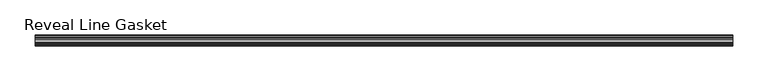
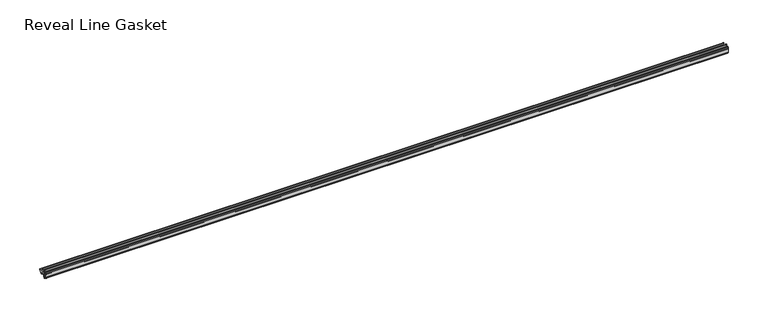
"""IFC4 building model written with IfcOpenShell, lengths in millimetres: proxy geometry, Accessories-Teknion-FHGR-AI_Healthcare-Reveal_Line_Gasket(Horizontal)-R2022 : Reveal Line Gasket."""

from ifc_helpers import new_model, si_unit, point, frame, frame_2d, origin, place, context, project, spatial, polyline, circle_curve, trimmed, segment, composite_curve, outline, extrude, source, transform, mapped, element, save


def reveal_line_gasket_129473d7(model_context):
    return source(origin(), model_context, "Body", "SweptSolid", [
        extrude(outline(composite_curve([segment(polyline([(-7.6326998, 1603.2), (-7.4091917, 1604.1554927), (-6.8813059, 1605.0884684)]), True, "CONTINUOUS"), segment(trimmed(circle_curve(frame_2d((-6.5243141, 1604.8864793)), 0.4101739), [point((-6.8813059, 1605.0884684))], [point((-6.1246704, 1604.7941347))], False, "CARTESIAN"), True, "CONTINUOUS"), segment(polyline([(-6.1246704, 1604.7941347), (-6.3626997, 1603.0979086), (-6.3626997, 1601.0654527)]), True, "CONTINUOUS"), segment(trimmed(circle_curve(frame_2d((-5.6959605, 1601.4819258)), 0.786124), [point((-6.3626997, 1601.0654527))], [point((-5.0926996, 1600.977875))], True, "CARTESIAN"), True, "CONTINUOUS"), segment(polyline([(-5.0926996, 1600.977875), (-0.7492996, 1600.977875), (-3.7293824, 1606.1395295)]), True, "CONTINUOUS"), segment(trimmed(circle_curve(frame_2d((-3.3132479, 1606.2049761)), 0.4212495), [point((-3.7293824, 1606.1395295))], [point((-3.0485022, 1606.5326358))], False, "CARTESIAN"), True, "CONTINUOUS"), segment(polyline([(-3.0485022, 1606.5326358), (0.5742594, 1600.977875), (4.8262978, 1600.977875), (3.1660374, 1603.8535297)]), True, "CONTINUOUS"), segment(trimmed(circle_curve(frame_2d((3.5978728, 1603.9118855)), 0.4357605), [point((3.1660374, 1603.8535297))], [point((3.864328, 1604.2566881))], False, "CARTESIAN"), True, "CONTINUOUS"), segment(polyline([(3.864328, 1604.2566881), (6.1944059, 1600.977875), (7.6326998, 1600.977875), (7.6326998, 1599.422125), (6.1944059, 1599.422125), (3.864328, 1596.1433119)]), True, "CONTINUOUS"), segment(trimmed(circle_curve(frame_2d((3.5978728, 1596.4881145)), 0.4357605), [point((3.864328, 1596.1433119))], [point((3.1660374, 1596.5464703))], False, "CARTESIAN"), True, "CONTINUOUS"), segment(polyline([(3.1660374, 1596.5464703), (4.8262978, 1599.422125), (0.5742594, 1599.422125), (-3.0485022, 1593.8673642)]), True, "CONTINUOUS"), segment(trimmed(circle_curve(frame_2d((-3.3132479, 1594.1950239)), 0.4212495), [point((-3.0485022, 1593.8673642))], [point((-3.7293824, 1594.2604705))], False, "CARTESIAN"), True, "CONTINUOUS"), segment(polyline([(-3.7293824, 1594.2604705), (-0.7492996, 1599.422125), (-5.0926996, 1599.422125)]), True, "CONTINUOUS"), segment(trimmed(circle_curve(frame_2d((-5.6959605, 1598.9180742)), 0.786124), [point((-5.0926996, 1599.422125))], [point((-6.3626997, 1599.3345473))], True, "CARTESIAN"), True, "CONTINUOUS"), segment(polyline([(-6.3626997, 1599.3345473), (-6.3626997, 1597.3020914), (-6.1246704, 1595.6058653)]), True, "CONTINUOUS"), segment(trimmed(circle_curve(frame_2d((-6.5243141, 1595.5135207)), 0.4101739), [point((-6.1246704, 1595.6058653))], [point((-6.8813059, 1595.3115316))], False, "CARTESIAN"), True, "CONTINUOUS"), segment(polyline([(-6.8813059, 1595.3115316), (-7.4091917, 1596.2445073), (-7.6326998, 1597.2), (-7.6326998, 1603.2)]), True, "CONTINUOUS")], self_intersect=False)), frame((-493.4204, 0.0, 0.0), z_axis=(1.0, 0.0, 0.0), x_axis=(0.0, 1.0, 0.0)), (0.0, 0.0, 1.0), 986.8408),
    ])


if __name__ == "__main__":
    model = new_model("IFC4")
    model_context = context("Model", 3, world=origin())
    ifc_project = project(units=[si_unit("LENGTHUNIT", "METRE", prefix="MILLI")], contexts=[model_context])
    site = spatial("IfcSite", under=ifc_project)
    building = spatial("IfcBuilding", under=site)
    placement = place(None, origin())
    reveal_line_gasket_shape = reveal_line_gasket_129473d7(model_context)
    element("IfcBuildingElementProxy", 1, Name="Accessories-Teknion-FHGR-AI_Healthcare-Reveal_Line_Gasket(Horizontal)-R2022 : Reveal Line Gasket", ObjectType="Accessories-Teknion-FHGR-AI_Healthcare-Reveal_Line_Gasket(Horizontal)-R2022 : Reveal Line Gasket", at=placement, inside=building, context=model_context, shape_type="MappedRepresentation", body=[
        mapped(reveal_line_gasket_shape, transform((0.0, 0.0, 0.0), x_axis=(1.0, 0.0, 0.0), y_axis=(0.0, 1.0, 0.0), z_axis=(0.0, 0.0, 1.0))),
    ])
    save(model, "model.ifc")
